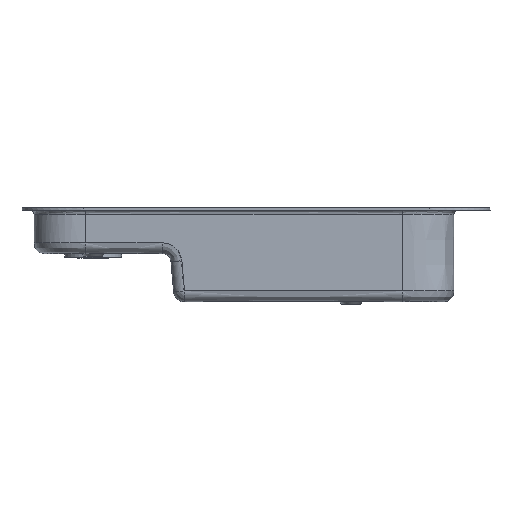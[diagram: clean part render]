
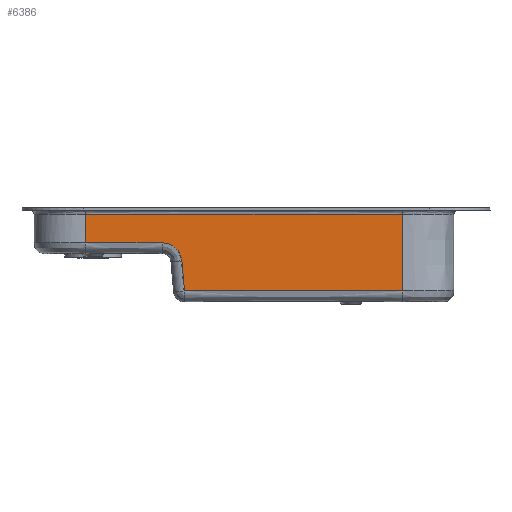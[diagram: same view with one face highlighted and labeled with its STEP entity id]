
A CAD part, front view. The second image highlights one B-rep face of the part: STEP entity #6386.
In plain terms, the highlighted planar face has unit normal (0, -1, 0).
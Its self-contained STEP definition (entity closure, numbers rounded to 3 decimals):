
#491=B_SPLINE_CURVE_WITH_KNOTS('',3,(#17037,#17038,#17039,#17040,#17041,
#17042,#17043,#17044,#17045,#17046,#17047,#17048,#17049),.UNSPECIFIED.,
 .F.,.F.,(4,3,3,3,4),(0.,0.25,0.5,0.75,1.),.UNSPECIFIED.);
#1054=LINE('',#17051,#1495);
#1055=LINE('',#17053,#1496);
#1056=LINE('',#17055,#1497);
#1057=LINE('',#17057,#1498);
#1058=LINE('',#17059,#1499);
#1059=LINE('',#17060,#1500);
#1495=VECTOR('',#7700,10.);
#1496=VECTOR('',#7701,10.);
#1497=VECTOR('',#7702,10.);
#1498=VECTOR('',#7703,10.);
#1499=VECTOR('',#7704,10.);
#1500=VECTOR('',#7705,10.);
#1829=FACE_OUTER_BOUND('',#2258,.T.);
#2258=EDGE_LOOP('',(#5304,#5305,#5306,#5307,#5308,#5309,#5310));
#2953=VERTEX_POINT('',#17035);
#2954=VERTEX_POINT('',#17036);
#2955=VERTEX_POINT('',#17050);
#2956=VERTEX_POINT('',#17052);
#2957=VERTEX_POINT('',#17054);
#2958=VERTEX_POINT('',#17056);
#2959=VERTEX_POINT('',#17058);
#3753=EDGE_CURVE('',#2953,#2954,#491,.T.);
#3754=EDGE_CURVE('',#2954,#2955,#1054,.T.);
#3755=EDGE_CURVE('',#2955,#2956,#1055,.T.);
#3756=EDGE_CURVE('',#2956,#2957,#1056,.T.);
#3757=EDGE_CURVE('',#2957,#2958,#1057,.T.);
#3758=EDGE_CURVE('',#2958,#2959,#1058,.T.);
#3759=EDGE_CURVE('',#2959,#2953,#1059,.T.);
#5304=ORIENTED_EDGE('',*,*,#3753,.T.);
#5305=ORIENTED_EDGE('',*,*,#3754,.T.);
#5306=ORIENTED_EDGE('',*,*,#3755,.T.);
#5307=ORIENTED_EDGE('',*,*,#3756,.T.);
#5308=ORIENTED_EDGE('',*,*,#3757,.T.);
#5309=ORIENTED_EDGE('',*,*,#3758,.T.);
#5310=ORIENTED_EDGE('',*,*,#3759,.T.);
#5740=PLANE('',#6738);
#6386=ADVANCED_FACE('',(#1829),#5740,.F.);
#6738=AXIS2_PLACEMENT_3D('',#17034,#7698,#7699);
#7698=DIRECTION('center_axis',(0.,1.,0.));
#7699=DIRECTION('ref_axis',(0.,0.,1.));
#7700=DIRECTION('',(0.085,0.,-0.996));
#7701=DIRECTION('',(1.,0.,0.));
#7702=DIRECTION('',(0.,0.,1.));
#7703=DIRECTION('',(-1.,0.,0.));
#7704=DIRECTION('',(0.,0.,-1.));
#7705=DIRECTION('',(1.,0.,0.));
#17034=CARTESIAN_POINT('Origin',(-0.638,-105.589,21.195));
#17035=CARTESIAN_POINT('',(-38.008,-105.589,5.985));
#17036=CARTESIAN_POINT('',(-29.041,-105.589,-2.249));
#17037=CARTESIAN_POINT('Ctrl Pts',(-38.008,-105.589,
5.985));
#17038=CARTESIAN_POINT('Ctrl Pts',(-36.893,-105.589,
5.985));
#17039=CARTESIAN_POINT('Ctrl Pts',(-35.774,-105.589,
5.775));
#17040=CARTESIAN_POINT('Ctrl Pts',(-34.743,-105.589,
5.373));
#17041=CARTESIAN_POINT('Ctrl Pts',(-33.712,-105.589,
4.972));
#17042=CARTESIAN_POINT('Ctrl Pts',(-32.738,-105.589,
4.365));
#17043=CARTESIAN_POINT('Ctrl Pts',(-31.921,-105.589,
3.614));
#17044=CARTESIAN_POINT('Ctrl Pts',(-31.104,-105.589,
2.864));
#17045=CARTESIAN_POINT('Ctrl Pts',(-30.416,-105.589,
1.946));
#17046=CARTESIAN_POINT('Ctrl Pts',(-29.928,-105.589,
0.953));
#17047=CARTESIAN_POINT('Ctrl Pts',(-29.44,-105.589,
-0.04));
#17048=CARTESIAN_POINT('Ctrl Pts',(-29.136,-105.589,
-1.137));
#17049=CARTESIAN_POINT('Ctrl Pts',(-29.041,-105.589,
-2.249));
#17050=CARTESIAN_POINT('',(-27.864,-105.589,-16.015));
#17051=CARTESIAN_POINT('',(-29.041,-105.589,-2.249));
#17052=CARTESIAN_POINT('',(71.824,-105.589,-16.015));
#17053=CARTESIAN_POINT('',(-27.864,-105.589,-16.015));
#17054=CARTESIAN_POINT('',(71.824,-105.589,18.985));
#17055=CARTESIAN_POINT('',(71.824,-105.589,-16.015));
#17056=CARTESIAN_POINT('',(-73.099,-105.589,18.985));
#17057=CARTESIAN_POINT('',(71.824,-105.589,18.985));
#17058=CARTESIAN_POINT('',(-73.099,-105.589,5.985));
#17059=CARTESIAN_POINT('',(-73.099,-105.589,18.985));
#17060=CARTESIAN_POINT('',(-73.099,-105.589,5.985));
